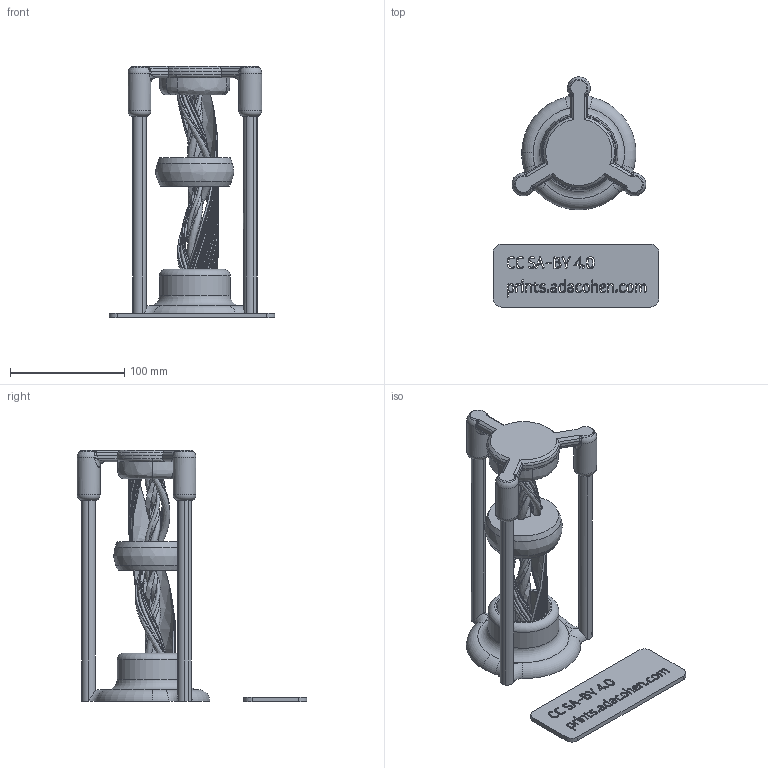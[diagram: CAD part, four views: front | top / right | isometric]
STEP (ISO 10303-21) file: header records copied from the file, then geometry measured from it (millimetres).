
FILE_DESCRIPTION(('HOOPS Exchange Step'),'2;1');
FILE_NAME('/private/var/mobile/Containers/Data/Application/A1A1F61A-6D73-4387-BFA1-1B1A633C6E20/tmp/export/temp_export','2023-03-04T13:36:07-05:00',('mobile'),('Shapr3D Limited'),'HOOPS Exchange 2022.2','Shapr3D','Authorized');
FILE_SCHEMA( ('AUTOMOTIVE_DESIGN { 1 0 10303 214 1 1 1 1 }') );
Length unit declared in the file: millimetre
Products named in the file (2): Spacers; root
Assembly tree (1 placements, depth 2):
  root
    Spacers
Bounding box: 145 x 201 x 220 mm (x, y, z)
Volume: 388784.4 mm3; surface area: 175032.5 mm2
Topology: 13 solids, 15 shells, 953 faces, 2714 edges, 1764 vertices
Faces by surface type: bspline 620, plane 171, cylinder 103, cone 32, torus 27
Full cylindrical faces by diameter (mm): 14.9 x2, 15.5 x2, 16 x1, 17.5 x2, 18.1 x2, 20 x3, 30.9 x2, 31.5 x2, 32 x1, 33 x1, 33.5 x2, 34.2 x2, 44.9 x2, 45.5 x2, 46 x1, 47.5 x2, 48 x2, 50 x2, 62 x1
Entity records: 109675 total; most frequent: CARTESIAN_POINT 89358, ORIENTED_EDGE 5340, EDGE_CURVE 2670, DIRECTION 2280, VERTEX_POINT 1764, B_SPLINE_CURVE_WITH_KNOTS 1372, EDGE_LOOP 1118, FACE_BOUND 1118
